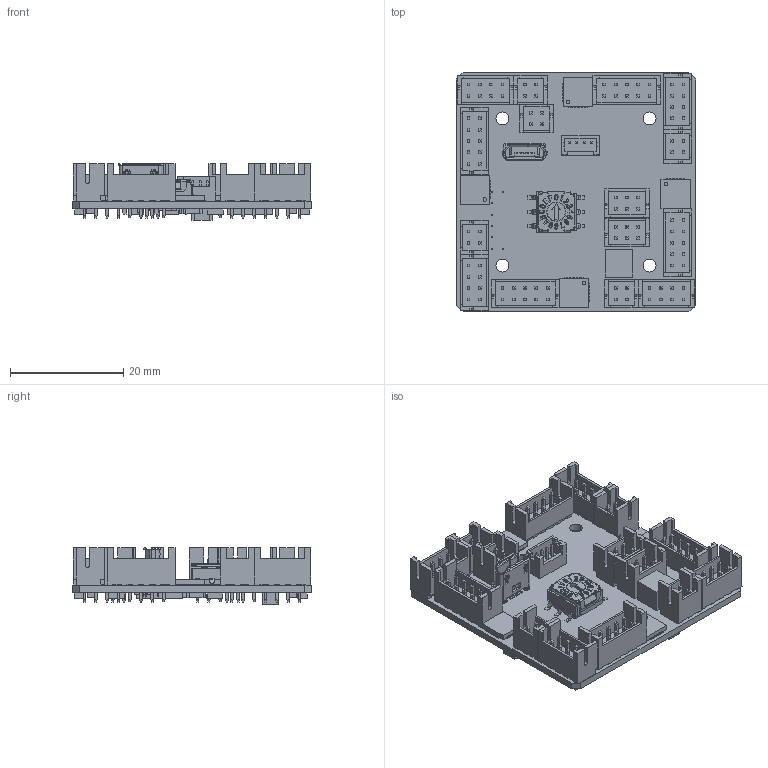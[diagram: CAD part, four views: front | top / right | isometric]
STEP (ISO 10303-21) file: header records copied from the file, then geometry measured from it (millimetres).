
FILE_DESCRIPTION(('Open CASCADE Model'),'2;1');
FILE_NAME('Open CASCADE Shape Model','2017-06-06T15:16:45',('Author'),( 'Open CASCADE'),'Open CASCADE STEP processor 6.8','Open CASCADE 6.8' ,'Unknown');
FILE_SCHEMA(('AUTOMOTIVE_DESIGN { 1 0 10303 214 1 1 1 1 }'));
Products named in the file (1): PCB
Bounding box: 42.3 x 42.3 x 10.06 mm (x, y, z)
Volume: 4333.3 mm3; surface area: 12241.6 mm2
Topology: 142 solids, 1716 shells, 6644 faces, 20770 edges, 16163 vertices
Faces by surface type: plane 6089, cylinder 457, bspline 60, sphere 20, torus 12, cone 6
Full cylindrical faces by diameter (mm): 0.2 x8, 0.55 x4, 0.644 x4, 0.75 x104, 1.2 x1, 2.286 x4, 3.28 x1, 3.3 x1, 3.4 x1, 3.42 x1, 4 x1
Entity records: 245875 total; most frequent: CARTESIAN_POINT 50478, DIRECTION 35042, ORIENTED_EDGE 32526, EDGE_CURVE 20750, LINE 19264, VECTOR 19264, VERTEX_POINT 16163, AXIS2_PLACEMENT_3D 7889
